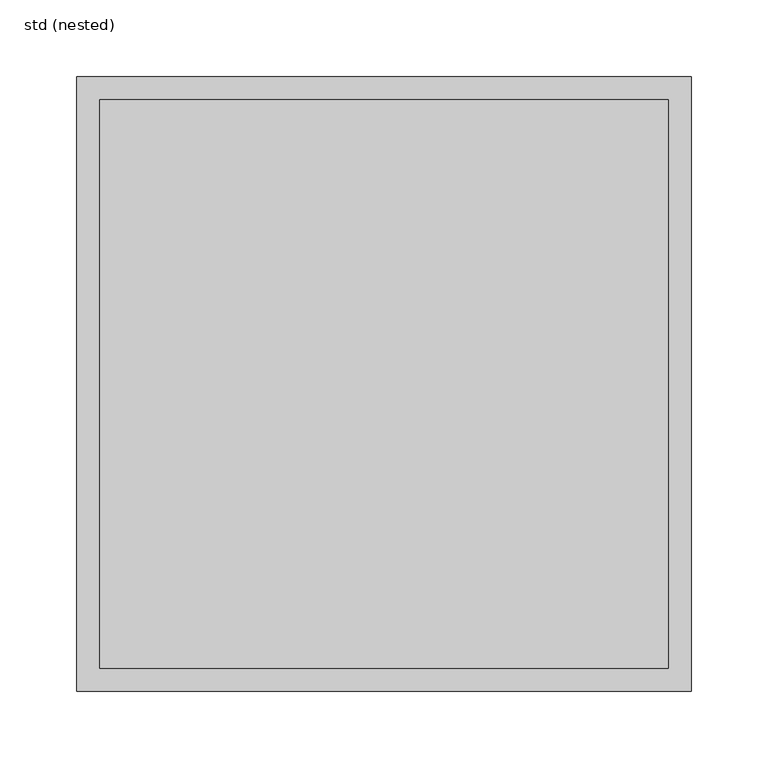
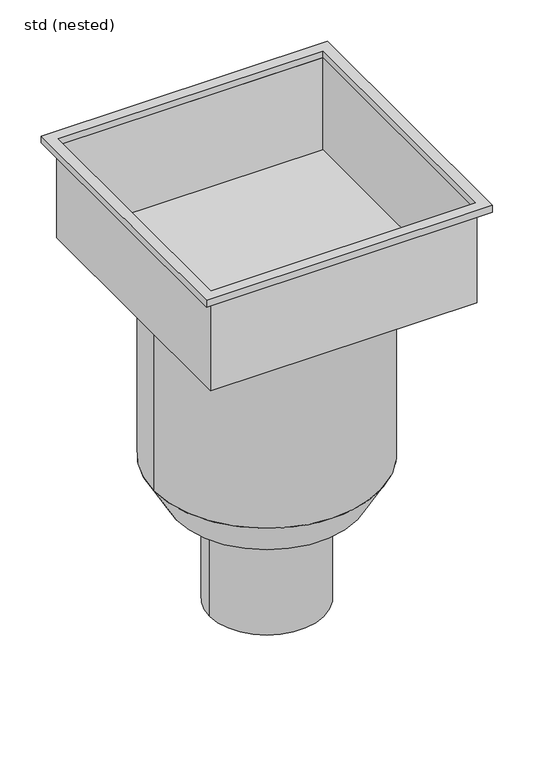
"""IFC4 building model written with IfcOpenShell, lengths in millimetres: sanitary terminal geometry, ZZZ_do not use_PF_ST_UN_high capacity gully_ACO : std (nested)."""

from ifc_helpers import new_model, si_unit, point, frame, origin, origin_2d, place, context, project, spatial, polyline, circle_curve, trimmed, segment, composite_curve, outline, extrude, faceted_brep, source, transform, mapped, element, save
from ifc_brep_helpers import plane_surface, revolved_surface, advanced_brep


def std_nested_b8d969d0(model_context):
    return source(origin(), model_context, "Body", "SolidModel", [
        faceted_brep([(186.25, 186.25, -147.0), (186.25, -186.25, -147.0), (-186.25, -186.25, -147.0), (-186.25, 186.25, -147.0), (185.0, -185.0, -145.75), (185.0, 185.0, -145.75), (-185.0, 185.0, -145.75), (-185.0, -185.0, -145.75), (-186.25, 186.25, -10.0), (186.25, 186.25, -10.0), (-186.25, -186.25, -10.0), (186.25, -186.25, -10.0), (185.0, 185.0, -10.0), (185.0, -185.0, -10.0), (-185.0, -185.0, -10.0), (-185.0, 185.0, -10.0)], [[[0, 1, 2, 3]], [[4, 5, 6, 7]], [[0, 3, 8, 9]], [[8, 3, 2, 10]], [[10, 2, 1, 11]], [[11, 1, 0, 9]], [[9, 8, 10, 11], [12, 13, 14, 15]], [[13, 12, 5, 4]], [[14, 13, 4, 7]], [[15, 14, 7, 6]], [[12, 15, 6, 5]]]),
        extrude(outline(composite_curve([segment(trimmed(circle_curve(origin_2d(), 80.0), [point((-80.0, 0.0))], [point((80.0, 0.0))], False, "CARTESIAN"), True, "CONTINUOUS"), segment(trimmed(circle_curve(origin_2d(), 80.0), [point((80.0, 0.0))], [point((-80.0, 0.0))], False, "CARTESIAN"), True, "CONTINUOUS")], self_intersect=False)), frame((0.0, 0.0, -630.0), z_axis=(0.0, 0.0, 1.0), x_axis=(1.0, 0.0, 0.0)), (0.0, 0.0, 1.0), 159.0),
        advanced_brep(
        [(-127.0, 0.0, -471.0), (127.0, 0.0, -471.0), (-157.5, 0.0, -418.1724504), (157.5, 0.0, -418.1724504)],
        [
            (0, 1, circle_curve(frame((0.0, 0.0, -471.0), z_axis=(0.0, 0.0, -1.0), x_axis=(-1.0, 0.0, 0.0)), 127.0)),
            (1, 0, circle_curve(frame((0.0, 0.0, -471.0), z_axis=(0.0, 0.0, -1.0), x_axis=(1.0, 0.0, 0.0)), 127.0)),
            (2, 3, circle_curve(frame((0.0, 0.0, -418.1724504), z_axis=(0.0, 0.0, 1.0), x_axis=(1.0, 0.0, 0.0)), 157.5)),
            (3, 2, circle_curve(frame((0.0, 0.0, -418.1724504), z_axis=(0.0, 0.0, 1.0), x_axis=(-1.0, 0.0, 0.0)), 157.5)),
            (2, 0),
            (1, 3),
        ],
        [
            plane_surface(frame((0.0, 0.0, -471.0), z_axis=(0.0, 0.0, -1.0), x_axis=(0.0, -1.0, 0.0))),
            plane_surface(frame((0.0, 0.0, -418.1724504), z_axis=(0.0, 0.0, 1.0), x_axis=(0.0, -1.0, 0.0))),
            revolved_surface(polyline([(127.00000001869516, 0.0, -471.0), (157.5, 0.0, -418.1724504)]), (0.0, 0.0, -690.9704526), (0.0, 0.0, 1.0)),
            revolved_surface(polyline([(-127.00000001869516, 0.0, -471.0), (-157.5, 0.0, -418.1724504)]), (0.0, 0.0, -690.9704526), (0.0, 0.0, 1.0)),
        ],
        [
            (0, [[1, 2]]),
            (1, [[3, 4]]),
            (2, [[-3, 5, -2, 6]]),
            (3, [[-4, -6, -1, -5]]),
        ],
    ),
        extrude(outline(composite_curve([segment(trimmed(circle_curve(origin_2d(), 157.5), [point((-157.5, 0.0))], [point((157.5, 0.0))], False, "CARTESIAN"), True, "CONTINUOUS"), segment(trimmed(circle_curve(origin_2d(), 157.5), [point((157.5, 0.0))], [point((-157.5, 0.0))], False, "CARTESIAN"), True, "CONTINUOUS")], self_intersect=False)), frame((0.0, 0.0, -418.1724504), z_axis=(0.0, 0.0, 1.0), x_axis=(1.0, 0.0, 0.0)), (0.0, 0.0, 1.0), 271.1724504),
        extrude(outline(polyline([(200.0, 200.0), (200.0, -200.0), (-200.0, -200.0), (-200.0, 200.0), (200.0, 200.0)]), holes=[polyline([(185.0, 185.0), (-185.0, 185.0), (-185.0, -185.0), (185.0, -185.0), (185.0, 185.0)])]), frame((0.0, 0.0, -10.0), z_axis=(0.0, 0.0, 1.0), x_axis=(1.0, 0.0, 0.0)), (0.0, 0.0, 1.0), 10.0),
    ])


if __name__ == "__main__":
    model = new_model("IFC4")
    model_context = context("Model", 3, world=origin())
    ifc_project = project(units=[si_unit("LENGTHUNIT", "METRE", prefix="MILLI")], contexts=[model_context])
    site = spatial("IfcSite", under=ifc_project)
    building = spatial("IfcBuilding", under=site)
    placement = place(None, origin())
    std_nested_shape = std_nested_b8d969d0(model_context)
    element("IfcSanitaryTerminal", 1, ObjectType="ZZZ_do not use_PF_ST_UN_high capacity gully_ACO : std (nested)", at=placement, inside=building, context=model_context, shape_type="MappedRepresentation", body=[
        mapped(std_nested_shape, transform((0.0, 0.0, 0.0), x_axis=(1.0, 0.0, 0.0), y_axis=(0.0, 1.0, 0.0), z_axis=(0.0, 0.0, 1.0))),
    ])
    save(model, "model.ifc")
